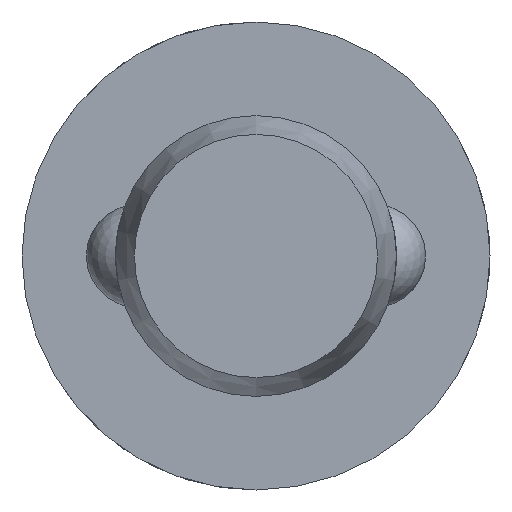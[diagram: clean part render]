
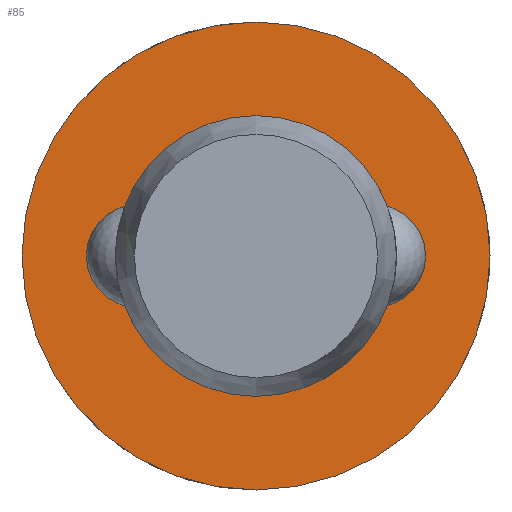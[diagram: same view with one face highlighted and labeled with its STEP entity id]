
A CAD part, left-side view. The second image highlights one B-rep face of the part: STEP entity #85.
In plain terms, the highlighted planar face has unit normal (-1, 0, 0).
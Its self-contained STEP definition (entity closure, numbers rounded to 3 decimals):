
#85 = ADVANCED_FACE( '', ( #130, #131 ), #132, .F. );
#130 = FACE_OUTER_BOUND( '', #201, .T. );
#131 = FACE_BOUND( '', #202, .T. );
#132 = PLANE( '', #203 );
#201 = EDGE_LOOP( '', ( #317 ) );
#202 = EDGE_LOOP( '', ( #318 ) );
#203 = AXIS2_PLACEMENT_3D( '', #319, #320, #321 );
#317 = ORIENTED_EDGE( '', *, *, #461, .F. );
#318 = ORIENTED_EDGE( '', *, *, #458, .T. );
#319 = CARTESIAN_POINT( '', ( 70.6, 6., 0. ) );
#320 = DIRECTION( '', ( 1., 0., 0. ) );
#321 = DIRECTION( '', ( 0., 0., -1. ) );
#458 = EDGE_CURVE( '', #532, #532, #533, .T. );
#461 = EDGE_CURVE( '', #538, #538, #539, .T. );
#532 = VERTEX_POINT( '', #742 );
#533 = CIRCLE( '', #743, 6. );
#538 = VERTEX_POINT( '', #858 );
#539 = CIRCLE( '', #859, 10. );
#742 = CARTESIAN_POINT( '', ( 70.6, 0., -6. ) );
#743 = AXIS2_PLACEMENT_3D( '', #936, #937, #938 );
#858 = CARTESIAN_POINT( '', ( 70.6, 0., -10. ) );
#859 = AXIS2_PLACEMENT_3D( '', #939, #940, #941 );
#936 = CARTESIAN_POINT( '', ( 70.6, 0., 0. ) );
#937 = DIRECTION( '', ( 1., 0., 0. ) );
#938 = DIRECTION( '', ( 0., 0., -1. ) );
#939 = CARTESIAN_POINT( '', ( 70.6, 0., 0. ) );
#940 = DIRECTION( '', ( 1., 0., 0. ) );
#941 = DIRECTION( '', ( 0., 0., -1. ) );
